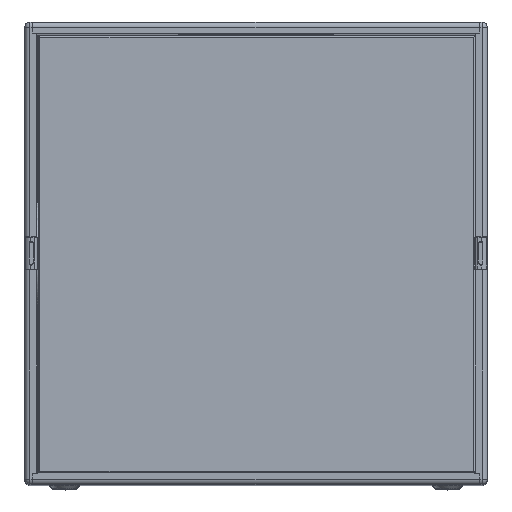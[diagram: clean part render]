
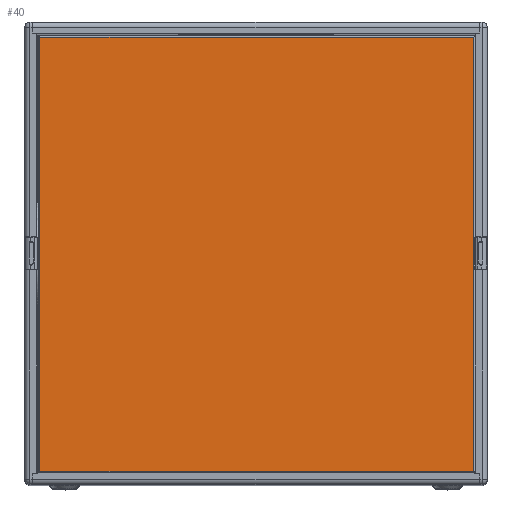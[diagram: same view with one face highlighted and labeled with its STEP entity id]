
A CAD part, top view. The second image highlights one B-rep face of the part: STEP entity #40.
In plain terms, the highlighted planar face has unit normal (0, 0, 1) as drawn and (-1, 0, 0) by its records, which use the part's own axes.
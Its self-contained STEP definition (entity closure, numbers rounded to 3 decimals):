
#40 = ADVANCED_FACE ( 'NONE', ( #5057 ), #27163, .T. ) ;
#655 = AXIS2_PLACEMENT_3D ( 'NONE', #27164, #27165, #27166 ) ;
#1502 = ORIENTED_EDGE ( 'NONE', *, *, #26072, .T. ) ;
#1503 = ORIENTED_EDGE ( 'NONE', *, *, #26073, .T. ) ;
#1504 = ORIENTED_EDGE ( 'NONE', *, *, #26074, .T. ) ;
#1505 = ORIENTED_EDGE ( 'NONE', *, *, #26075, .T. ) ;
#4933 = VERTEX_POINT ( 'NONE', #9509 ) ;
#4935 = VERTEX_POINT ( 'NONE', #9510 ) ;
#5057 = FACE_OUTER_BOUND ( 'NONE', #5323, .T. ) ;
#5323 = EDGE_LOOP ( 'NONE', ( #1502, #1503, #1504, #1505 ) ) ;
#9509 = CARTESIAN_POINT ( 'NONE',  ( 0., 2., -2. ) ) ;
#9510 = CARTESIAN_POINT ( 'NONE',  ( 0., 546., -2. ) ) ;
#10318 = CARTESIAN_POINT ( 'NONE',  ( 0., 546., -546. ) ) ;
#10319 = CARTESIAN_POINT ( 'NONE',  ( 0., 2., -546. ) ) ;
#15070 = VERTEX_POINT ( 'NONE', #10318 ) ;
#15071 = VERTEX_POINT ( 'NONE', #10319 ) ;
#18884 = LINE ( 'NONE', #19763, #18885 ) ;
#18885 = VECTOR ( 'NONE', #19764, 1000. ) ;
#18886 = LINE ( 'NONE', #19765, #18887 ) ;
#18887 = VECTOR ( 'NONE', #19766, 1000. ) ;
#18888 = LINE ( 'NONE', #19767, #18889 ) ;
#18889 = VECTOR ( 'NONE', #19768, 1000. ) ;
#18890 = LINE ( 'NONE', #19769, #18891 ) ;
#18891 = VECTOR ( 'NONE', #19770, 1000. ) ;
#19763 = CARTESIAN_POINT ( 'NONE',  ( 0., 0., -546. ) ) ;
#19764 = DIRECTION ( 'NONE',  ( 0., -1., 0. ) ) ;
#19765 = CARTESIAN_POINT ( 'NONE',  ( 0., 2., 0. ) ) ;
#19766 = DIRECTION ( 'NONE',  ( 0., 0., 1. ) ) ;
#19767 = CARTESIAN_POINT ( 'NONE',  ( 0., 548., -2. ) ) ;
#19768 = DIRECTION ( 'NONE',  ( 0., 1., 0. ) ) ;
#19769 = CARTESIAN_POINT ( 'NONE',  ( 0., 546., -548. ) ) ;
#19770 = DIRECTION ( 'NONE',  ( 0., 0., -1. ) ) ;
#26072 = EDGE_CURVE ( 'NONE', #15070, #15071, #18884, .T. ) ;
#26073 = EDGE_CURVE ( 'NONE', #15071, #4933, #18886, .T. ) ;
#26074 = EDGE_CURVE ( 'NONE', #4933, #4935, #18888, .T. ) ;
#26075 = EDGE_CURVE ( 'NONE', #4935, #15070, #18890, .T. ) ;
#27163 = PLANE ( 'NONE',  #655 ) ;
#27164 = CARTESIAN_POINT ( 'NONE',  ( 0., 548., 0. ) ) ;
#27165 = DIRECTION ( 'NONE',  ( -1., 0., 0. ) ) ;
#27166 = DIRECTION ( 'NONE',  ( 0., 0., 1. ) ) ;
